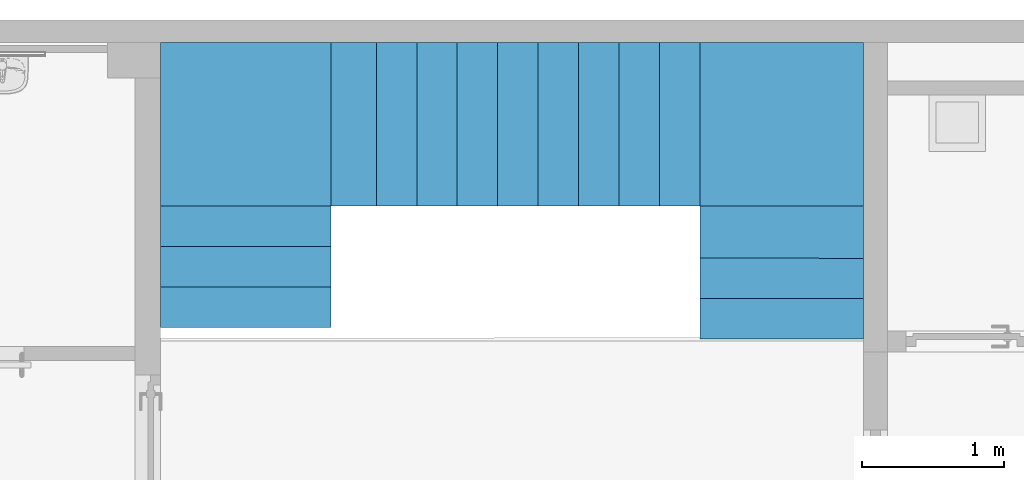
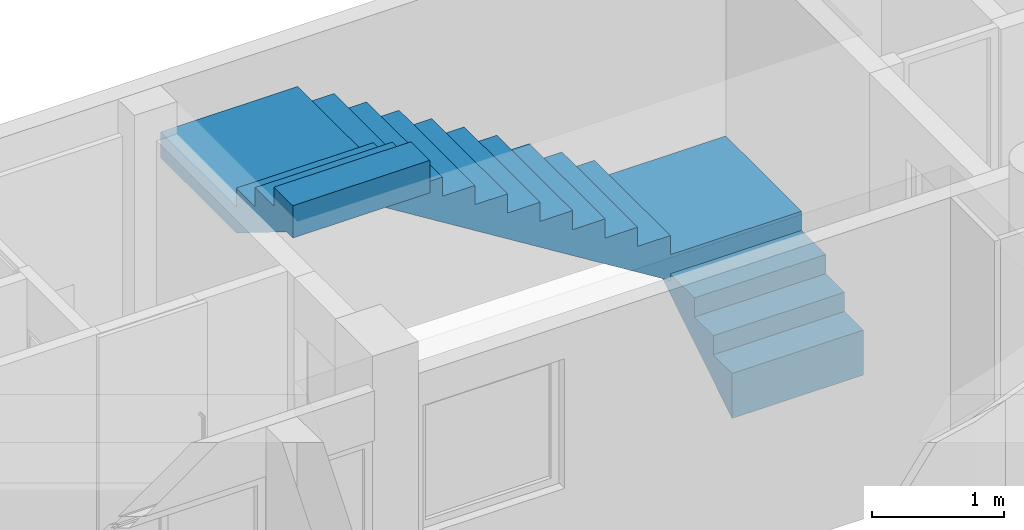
"""IFC4 building model written with IfcOpenShell, lengths in metres."""

from ifc_helpers import new_model, entity, si_unit, converted_unit, derived_unit, frame, origin, place, context, subcontext, project, spatial, faceted_brep, element, save


model = new_model("IFC4")

# Units and contexts
model_context = context("Model", 3, precision=1e-05, world=origin())
body_context = subcontext(model_context, "Body", "Model", "MODEL_VIEW")
ifc_project = project(units=[si_unit("LENGTHUNIT", "METRE"), si_unit("AREAUNIT", "SQUARE_METRE"), si_unit("VOLUMEUNIT", "CUBIC_METRE"), si_unit("MASSUNIT", "GRAM", prefix="KILO"), converted_unit("PLANEANGLEUNIT", "DEGREE", entity("IfcPlaneAngleMeasure", 0.0174532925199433), si_unit("PLANEANGLEUNIT", "RADIAN"), dimensions=[0, 0, 0, 0, 0, 0, 0]), derived_unit("THERMALTRANSMITTANCEUNIT", [(si_unit("POWERUNIT", "WATT"), 1), (si_unit("THERMODYNAMICTEMPERATUREUNIT", "KELVIN"), -1), (si_unit("LENGTHUNIT", "METRE"), -2)]), derived_unit("VOLUMETRICFLOWRATEUNIT", [(si_unit("LENGTHUNIT", "METRE"), 3), (converted_unit("TIMEUNIT", "hour", entity("IfcTimeMeasure", 3600.0), si_unit("TIMEUNIT", "SECOND"), dimensions=[0, 0, 1, 0, 0, 0, 0]), -1), (si_unit("LENGTHUNIT", "METRE"), -1)])], contexts=[model_context])

# Building, storeys
building_placement = place(None, origin())
building = spatial("IfcBuilding", under=ifc_project, at=building_placement, Name="HABITATGE PLURIFAMILIAR", CompositionType="ELEMENT")
storey_1_placement = place(building_placement, frame((0.0, 0.0, 12.27)))
storey_1 = spatial("IfcBuildingStorey", under=building, at=storey_1_placement, Name="PLANTA TERCERA", CompositionType="ELEMENT", Elevation=12.27)
storey_2_placement = place(storey_1_placement, frame((0.0, 0.0, 9.26)))
storey_2 = spatial("IfcBuildingStorey", under=storey_1, at=storey_2_placement, Name="NOU", CompositionType="PARTIAL")

# Stair
stair_placement = place(storey_2_placement, frame((410.826984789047, 25.9805469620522, -9.50006483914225)))
element("IfcStair", 1, at=stair_placement, inside=storey_2, Name="Escala P3", PredefinedType="NOTDEFINED", context=body_context, shape_type="Brep", body=[
    faceted_brep([(3.79890759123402, 0.000171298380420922, 0.377123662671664), (3.79890759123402, 0.000171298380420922, 0.417123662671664), (4.94890757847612, 0.0, 0.417123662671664), (4.94890757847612, 0.0, 0.377123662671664), (4.94895003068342, 0.284999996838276, 0.417123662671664), (4.94895003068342, 0.284999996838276, 0.377123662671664), (3.79895004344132, 0.285171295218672, 0.417123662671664), (3.79895004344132, 0.285171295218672, 0.377123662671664)], [[[0, 1, 2, 3]], [[3, 2, 4, 5]], [[5, 4, 6, 7]], [[7, 6, 1, 0]], [[0, 3, 5, 7]], [[1, 6, 4, 2]]], orient=[[False], [False], [False], [False], [False], [False]]),
    faceted_brep([(3.79895004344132, 0.285171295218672, 0.554182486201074), (3.79895004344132, 0.285171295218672, 0.594182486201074), (4.94895003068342, 0.284999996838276, 0.594182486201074), (4.94895003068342, 0.284999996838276, 0.554182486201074), (4.94899248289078, 0.569999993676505, 0.594182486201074), (4.94899248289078, 0.569999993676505, 0.554182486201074), (3.79899249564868, 0.570171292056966, 0.594182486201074), (3.79899249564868, 0.570171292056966, 0.554182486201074)], [[[0, 1, 2, 3]], [[3, 2, 4, 5]], [[5, 4, 6, 7]], [[7, 6, 1, 0]], [[0, 3, 5, 7]], [[1, 6, 4, 2]]], orient=[[False], [False], [False], [False], [False], [False]]),
    faceted_brep([(3.79899249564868, 0.570171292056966, 0.731241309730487), (3.79899249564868, 0.570171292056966, 0.771241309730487), (4.94899248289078, 0.569999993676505, 0.771241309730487), (4.94899248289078, 0.569999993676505, 0.731241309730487), (4.9490472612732, 0.937750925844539, 0.771241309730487), (4.9490472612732, 0.937750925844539, 0.731241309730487), (3.79904727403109, 0.937922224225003, 0.771241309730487), (3.79904727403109, 0.937922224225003, 0.731241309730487)], [[[0, 1, 2, 3]], [[3, 2, 4, 5]], [[5, 4, 6, 7]], [[7, 6, 1, 0]], [[0, 3, 5, 7]], [[1, 6, 4, 2]]], orient=[[False], [False], [False], [False], [False], [False]]),
    faceted_brep([(4.9490472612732, 0.937750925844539, 0.731241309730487), (4.94899248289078, 0.569999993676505, 0.731241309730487), (3.79899249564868, 0.570171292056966, 0.731241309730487), (3.79904727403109, 0.937922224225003, 0.731241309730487), (4.94890757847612, 0.0, 0.0), (4.94890757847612, 0.0, 0.377123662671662), (4.94895003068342, 0.284999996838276, 0.377123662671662), (4.94895003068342, 0.284999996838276, 0.554182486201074), (4.94899248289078, 0.569999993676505, 0.554182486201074), (4.9490472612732, 0.937750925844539, 0.708300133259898), (4.94907740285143, 1.14010435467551, 0.708300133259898), (3.79899249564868, 0.570171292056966, 0.554182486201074), (3.79907741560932, 1.14027565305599, 0.708300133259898), (3.79904727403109, 0.937922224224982, 0.708300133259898), (3.79895004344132, 0.285171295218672, 0.554182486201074), (3.79895004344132, 0.285171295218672, 0.377123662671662), (3.79890759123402, 0.000171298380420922, 0.377123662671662), (3.79890759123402, 0.000171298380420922, 0.0)], [[[0, 1, 2, 3]], [[4, 5, 6, 7, 8, 1, 0, 9, 10]], [[1, 8, 11, 2]], [[12, 13, 3, 2, 11, 14, 15, 16, 17]], [[12, 17, 4, 10]], [[13, 12, 10, 9]], [[8, 7, 14, 11]], [[7, 6, 15, 14]], [[6, 5, 16, 15]], [[5, 4, 17, 16]], [[13, 9, 0, 3]]], orient=[[False], [False], [False], [False], [False], [False], [False], [False], [False], [False], [False]]),
    faceted_brep([(3.79904727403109, 0.937922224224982, 0.908300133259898), (3.79904727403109, 0.937922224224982, 0.948300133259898), (4.9490472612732, 0.937750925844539, 0.948300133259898), (4.9490472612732, 0.937750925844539, 0.908300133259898), (4.94921858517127, 2.08792222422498, 0.948300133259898), (4.94921858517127, 2.08792222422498, 0.908300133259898), (3.79904727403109, 2.08792222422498, 0.948300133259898), (3.79904727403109, 2.08792222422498, 0.908300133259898)], [[[0, 1, 2, 3]], [[3, 2, 4, 5]], [[5, 4, 6, 7]], [[7, 6, 1, 0]], [[0, 3, 5, 7]], [[1, 6, 4, 2]]], orient=[[False], [False], [False], [False], [False], [False]]),
    faceted_brep([(3.79904727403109, 0.937922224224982, 0.708300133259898), (3.79904727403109, 0.937922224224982, 0.908300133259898), (4.9490472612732, 0.937750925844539, 0.908300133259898), (4.9490472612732, 0.937750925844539, 0.708300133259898), (4.94921858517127, 2.08792222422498, 0.908300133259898), (4.94921858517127, 2.08792222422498, 0.708300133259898), (3.79904727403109, 2.08792222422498, 0.908300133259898), (3.79904727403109, 2.08792222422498, 0.708300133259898)], [[[0, 1, 2, 3]], [[3, 2, 4, 5]], [[5, 4, 6, 7]], [[7, 6, 1, 0]], [[0, 3, 5, 7]], [[1, 6, 4, 2]]], orient=[[False], [False], [False], [False], [False], [False]]),
    faceted_brep([(3.79904727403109, 0.937922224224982, 1.08535895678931), (3.79904727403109, 0.937922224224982, 1.12535895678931), (3.79904727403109, 2.08792222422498, 1.12535895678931), (3.79904727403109, 2.08792222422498, 1.08535895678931), (3.51404727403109, 2.08792222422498, 1.12535895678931), (3.51404727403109, 2.08792222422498, 1.08535895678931), (3.51404727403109, 0.937922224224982, 1.12535895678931), (3.51404727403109, 0.937922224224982, 1.08535895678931)], [[[0, 1, 2, 3]], [[3, 2, 4, 5]], [[5, 4, 6, 7]], [[7, 6, 1, 0]], [[0, 3, 5, 7]], [[1, 6, 4, 2]]], orient=[[False], [False], [False], [False], [False], [False]]),
    faceted_brep([(3.51404727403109, 0.937922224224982, 1.26241778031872), (3.51404727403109, 0.937922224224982, 1.30241778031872), (3.51404727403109, 2.08792222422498, 1.30241778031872), (3.51404727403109, 2.08792222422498, 1.26241778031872), (3.22904727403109, 2.08792222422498, 1.30241778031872), (3.22904727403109, 2.08792222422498, 1.26241778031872), (3.22904727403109, 0.937922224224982, 1.30241778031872), (3.22904727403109, 0.937922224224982, 1.26241778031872)], [[[0, 1, 2, 3]], [[3, 2, 4, 5]], [[5, 4, 6, 7]], [[7, 6, 1, 0]], [[0, 3, 5, 7]], [[1, 6, 4, 2]]], orient=[[False], [False], [False], [False], [False], [False]]),
    faceted_brep([(3.22904727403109, 0.937922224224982, 1.43947660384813), (3.22904727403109, 0.937922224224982, 1.47947660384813), (3.22904727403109, 2.08792222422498, 1.47947660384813), (3.22904727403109, 2.08792222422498, 1.43947660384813), (2.94404727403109, 2.08792222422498, 1.47947660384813), (2.94404727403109, 2.08792222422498, 1.43947660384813), (2.94404727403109, 0.937922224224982, 1.47947660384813), (2.94404727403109, 0.937922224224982, 1.43947660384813)], [[[0, 1, 2, 3]], [[3, 2, 4, 5]], [[5, 4, 6, 7]], [[7, 6, 1, 0]], [[0, 3, 5, 7]], [[1, 6, 4, 2]]], orient=[[False], [False], [False], [False], [False], [False]]),
    faceted_brep([(2.94404727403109, 0.937922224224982, 1.61653542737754), (2.94404727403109, 0.937922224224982, 1.65653542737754), (2.94404727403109, 2.08792222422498, 1.65653542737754), (2.94404727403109, 2.08792222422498, 1.61653542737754), (2.65904727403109, 2.08792222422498, 1.65653542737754), (2.65904727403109, 2.08792222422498, 1.61653542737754), (2.65904727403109, 0.937922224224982, 1.65653542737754), (2.65904727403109, 0.937922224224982, 1.61653542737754)], [[[0, 1, 2, 3]], [[3, 2, 4, 5]], [[5, 4, 6, 7]], [[7, 6, 1, 0]], [[0, 3, 5, 7]], [[1, 6, 4, 2]]], orient=[[False], [False], [False], [False], [False], [False]]),
    faceted_brep([(2.65904727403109, 0.937922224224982, 1.79359425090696), (2.65904727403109, 0.937922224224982, 1.83359425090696), (2.65904727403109, 2.08792222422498, 1.83359425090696), (2.65904727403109, 2.08792222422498, 1.79359425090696), (2.37404727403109, 2.08792222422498, 1.83359425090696), (2.37404727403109, 2.08792222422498, 1.79359425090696), (2.37404727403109, 0.937922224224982, 1.83359425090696), (2.37404727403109, 0.937922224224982, 1.79359425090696)], [[[0, 1, 2, 3]], [[3, 2, 4, 5]], [[5, 4, 6, 7]], [[7, 6, 1, 0]], [[0, 3, 5, 7]], [[1, 6, 4, 2]]], orient=[[False], [False], [False], [False], [False], [False]]),
    faceted_brep([(2.37404727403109, 0.937922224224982, 1.97065307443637), (2.37404727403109, 0.937922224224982, 2.01065307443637), (2.37404727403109, 2.08792222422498, 2.01065307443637), (2.37404727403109, 2.08792222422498, 1.97065307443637), (2.08904727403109, 2.08792222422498, 2.01065307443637), (2.08904727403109, 2.08792222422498, 1.97065307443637), (2.08904727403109, 0.937922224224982, 2.01065307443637), (2.08904727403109, 0.937922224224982, 1.97065307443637)], [[[0, 1, 2, 3]], [[3, 2, 4, 5]], [[5, 4, 6, 7]], [[7, 6, 1, 0]], [[0, 3, 5, 7]], [[1, 6, 4, 2]]], orient=[[False], [False], [False], [False], [False], [False]]),
    faceted_brep([(2.08904727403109, 0.937922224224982, 2.14771189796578), (2.08904727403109, 0.937922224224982, 2.18771189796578), (2.08904727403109, 2.08792222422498, 2.18771189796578), (2.08904727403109, 2.08792222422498, 2.14771189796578), (1.80404727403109, 2.08792222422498, 2.18771189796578), (1.80404727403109, 2.08792222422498, 2.14771189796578), (1.80404727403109, 0.937922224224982, 2.18771189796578), (1.80404727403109, 0.937922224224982, 2.14771189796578)], [[[0, 1, 2, 3]], [[3, 2, 4, 5]], [[5, 4, 6, 7]], [[7, 6, 1, 0]], [[0, 3, 5, 7]], [[1, 6, 4, 2]]], orient=[[False], [False], [False], [False], [False], [False]]),
    faceted_brep([(1.80404727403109, 0.937922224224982, 2.32477072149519), (1.80404727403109, 0.937922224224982, 2.36477072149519), (1.80404727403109, 2.08792222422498, 2.36477072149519), (1.80404727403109, 2.08792222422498, 2.32477072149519), (1.51904727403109, 2.08792222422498, 2.36477072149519), (1.51904727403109, 2.08792222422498, 2.32477072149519), (1.51904727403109, 0.937922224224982, 2.36477072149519), (1.51904727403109, 0.937922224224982, 2.32477072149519)], [[[0, 1, 2, 3]], [[3, 2, 4, 5]], [[5, 4, 6, 7]], [[7, 6, 1, 0]], [[0, 3, 5, 7]], [[1, 6, 4, 2]]], orient=[[False], [False], [False], [False], [False], [False]]),
    faceted_brep([(1.51904727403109, 0.937922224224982, 2.5018295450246), (1.51904727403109, 0.937922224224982, 2.5418295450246), (1.51904727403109, 2.08792222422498, 2.5418295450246), (1.51904727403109, 2.08792222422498, 2.5018295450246), (1.19984509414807, 2.08792222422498, 2.5418295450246), (1.19984509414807, 2.08792222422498, 2.5018295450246), (1.19984509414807, 0.937922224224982, 2.5418295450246), (1.19984509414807, 0.937922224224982, 2.5018295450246)], [[[0, 1, 2, 3]], [[3, 2, 4, 5]], [[5, 4, 6, 7]], [[7, 6, 1, 0]], [[0, 3, 5, 7]], [[1, 6, 4, 2]]], orient=[[False], [False], [False], [False], [False], [False]]),
    faceted_brep([(1.19984509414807, 2.08792222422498, 2.5018295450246), (1.51904727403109, 2.08792222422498, 2.5018295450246), (1.51904727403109, 0.937922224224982, 2.5018295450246), (1.19984509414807, 0.937922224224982, 2.5018295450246), (3.79904727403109, 2.08792222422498, 0.708300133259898), (3.79904727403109, 2.08792222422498, 1.08535895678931), (3.51404727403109, 2.08792222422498, 1.08535895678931), (3.51404727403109, 2.08792222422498, 1.26241778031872), (3.22904727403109, 2.08792222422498, 1.26241778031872), (3.22904727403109, 2.08792222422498, 1.43947660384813), (2.94404727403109, 2.08792222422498, 1.43947660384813), (2.94404727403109, 2.08792222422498, 1.61653542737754), (2.65904727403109, 2.08792222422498, 1.61653542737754), (2.65904727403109, 2.08792222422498, 1.79359425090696), (2.37404727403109, 2.08792222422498, 1.79359425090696), (2.37404727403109, 2.08792222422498, 1.97065307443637), (2.08904727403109, 2.08792222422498, 1.97065307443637), (2.08904727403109, 2.08792222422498, 2.14771189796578), (1.80404727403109, 2.08792222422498, 2.14771189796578), (1.80404727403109, 2.08792222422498, 2.32477072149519), (1.51904727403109, 2.08792222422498, 2.32477072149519), (1.19984509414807, 2.08792222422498, 2.47888836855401), (0.948942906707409, 2.08792222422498, 2.47888836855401), (3.79894290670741, 2.08792222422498, 0.708300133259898), (1.51904727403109, 0.937922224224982, 2.32477072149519), (3.79894290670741, 0.937922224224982, 0.708300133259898), (0.948942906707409, 0.937922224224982, 2.47888836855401), (1.19984509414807, 0.937922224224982, 2.47888836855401), (1.80404727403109, 0.937922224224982, 2.32477072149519), (1.80404727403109, 0.937922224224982, 2.14771189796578), (2.08904727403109, 0.937922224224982, 2.14771189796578), (2.08904727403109, 0.937922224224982, 1.97065307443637), (2.37404727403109, 0.937922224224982, 1.97065307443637), (2.37404727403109, 0.937922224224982, 1.79359425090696), (2.65904727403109, 0.937922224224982, 1.79359425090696), (2.65904727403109, 0.937922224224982, 1.61653542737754), (2.94404727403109, 0.937922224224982, 1.61653542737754), (2.94404727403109, 0.937922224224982, 1.43947660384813), (3.22904727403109, 0.937922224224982, 1.43947660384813), (3.22904727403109, 0.937922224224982, 1.26241778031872), (3.51404727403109, 0.937922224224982, 1.26241778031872), (3.51404727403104, 0.937922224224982, 1.08535895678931), (3.79904727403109, 0.937922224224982, 1.08535895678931), (3.79904727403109, 0.937922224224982, 0.708300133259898)], [[[0, 1, 2, 3]], [[4, 5, 6, 7, 8, 9, 10, 11, 12, 13, 14, 15, 16, 17, 18, 19, 20, 1, 0, 21, 22, 23]], [[1, 20, 24, 2]], [[25, 26, 27, 3, 2, 24, 28, 29, 30, 31, 32, 33, 34, 35, 36, 37, 38, 39, 40, 41, 42, 43]], [[4, 23, 25, 43]], [[26, 25, 23, 22]], [[27, 26, 22, 21]], [[20, 19, 28, 24]], [[19, 18, 29, 28]], [[18, 17, 30, 29]], [[17, 16, 31, 30]], [[16, 15, 32, 31]], [[15, 14, 33, 32]], [[14, 13, 34, 33]], [[13, 12, 35, 34]], [[12, 11, 36, 35]], [[11, 10, 37, 36]], [[10, 9, 38, 37]], [[9, 8, 39, 38]], [[8, 7, 40, 39]], [[7, 6, 41, 40]], [[6, 5, 42, 41]], [[5, 4, 43, 42]], [[27, 21, 0, 3]]], orient=[[False], [False], [False], [False], [False], [False], [False], [False], [False], [False], [False], [False], [False], [False], [False], [False], [False], [False], [False], [False], [False], [False], [False], [False]]),
    faceted_brep([(1.19984509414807, 0.937922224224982, 2.67888836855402), (1.19984509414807, 0.937922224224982, 2.71888836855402), (1.19984509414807, 2.08792222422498, 2.71888836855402), (1.19984509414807, 2.08792222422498, 2.67888836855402), (0.0, 2.08792222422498, 2.71888836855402), (0.0, 2.08792222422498, 2.67888836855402), (0.0, 0.937922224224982, 2.71888836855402), (0.0, 0.937922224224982, 2.67888836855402)], [[[0, 1, 2, 3]], [[3, 2, 4, 5]], [[5, 4, 6, 7]], [[7, 6, 1, 0]], [[0, 3, 5, 7]], [[1, 6, 4, 2]]], orient=[[False], [False], [False], [False], [False], [False]]),
    faceted_brep([(1.19984509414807, 0.937922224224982, 2.47888836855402), (1.19984509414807, 0.937922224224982, 2.67888836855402), (1.19984509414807, 2.08792222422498, 2.67888836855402), (1.19984509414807, 2.08792222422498, 2.47888836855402), (0.0, 2.08792222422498, 2.67888836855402), (0.0, 2.08792222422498, 2.47888836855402), (0.0, 0.937922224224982, 2.67888836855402), (0.0, 0.937922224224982, 2.47888836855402)], [[[0, 1, 2, 3]], [[3, 2, 4, 5]], [[5, 4, 6, 7]], [[7, 6, 1, 0]], [[0, 3, 5, 7]], [[1, 6, 4, 2]]], orient=[[False], [False], [False], [False], [False], [False]]),
    faceted_brep([(1.19984509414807, 0.937922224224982, 2.85594719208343), (1.19984509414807, 0.937922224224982, 2.89594719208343), (0.0, 0.937922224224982, 2.89594719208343), (0.0, 0.937922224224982, 2.85594719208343), (0.0, 0.652922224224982, 2.89594719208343), (0.0, 0.652922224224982, 2.85594719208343), (1.19984509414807, 0.652922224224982, 2.89594719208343), (1.19984509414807, 0.652922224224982, 2.85594719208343)], [[[0, 1, 2, 3]], [[3, 2, 4, 5]], [[5, 4, 6, 7]], [[7, 6, 1, 0]], [[0, 3, 5, 7]], [[1, 6, 4, 2]]], orient=[[False], [False], [False], [False], [False], [False]]),
    faceted_brep([(1.19984509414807, 0.652922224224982, 3.03300601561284), (1.19984509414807, 0.652922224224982, 3.07300601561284), (0.0, 0.652922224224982, 3.07300601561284), (0.0, 0.652922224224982, 3.03300601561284), (0.0, 0.367922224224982, 3.07300601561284), (0.0, 0.367922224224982, 3.03300601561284), (1.19984509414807, 0.367922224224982, 3.07300601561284), (1.19984509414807, 0.367922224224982, 3.03300601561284)], [[[0, 1, 2, 3]], [[3, 2, 4, 5]], [[5, 4, 6, 7]], [[7, 6, 1, 0]], [[0, 3, 5, 7]], [[1, 6, 4, 2]]], orient=[[False], [False], [False], [False], [False], [False]]),
    faceted_brep([(1.19984509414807, 0.367922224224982, 3.21006483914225), (1.19984509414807, 0.367922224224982, 3.25006483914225), (0.0, 0.367922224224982, 3.25006483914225), (0.0, 0.367922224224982, 3.21006483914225), (0.0, 0.0829222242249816, 3.25006483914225), (0.0, 0.0829222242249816, 3.21006483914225), (1.19984509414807, 0.0829222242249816, 3.25006483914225), (1.19984509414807, 0.0829222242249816, 3.21006483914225)], [[[0, 1, 2, 3]], [[3, 2, 4, 5]], [[5, 4, 6, 7]], [[7, 6, 1, 0]], [[0, 3, 5, 7]], [[1, 6, 4, 2]]], orient=[[False], [False], [False], [False], [False], [False]]),
    faceted_brep([(0.0, 0.0829222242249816, 3.21006483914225), (0.0, 0.367922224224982, 3.21006483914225), (1.19984509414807, 0.367922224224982, 3.21006483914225), (1.19984509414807, 0.0829222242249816, 3.21006483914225), (0.0, 0.937922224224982, 2.47888836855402), (0.0, 0.937922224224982, 2.85594719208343), (0.0, 0.652922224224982, 2.85594719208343), (0.0, 0.652922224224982, 3.03300601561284), (0.0, 0.367922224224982, 3.03300601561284), (0.0, 0.0829222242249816, 2.95006483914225), (0.0, 0.179395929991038, 2.95006483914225), (0.0, 0.93781785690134, 2.47888836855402), (1.19984509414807, 0.367922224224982, 3.03300601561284), (1.19984509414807, 0.93781785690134, 2.47888836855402), (1.19984509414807, 0.179395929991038, 2.95006483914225), (1.19984509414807, 0.0829222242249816, 2.95006483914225), (1.19984509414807, 0.652922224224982, 3.03300601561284), (1.19984509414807, 0.652922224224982, 2.85594719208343), (1.19984509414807, 0.937922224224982, 2.85594719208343), (1.19984509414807, 0.937922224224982, 2.47888836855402)], [[[0, 1, 2, 3]], [[4, 5, 6, 7, 8, 1, 0, 9, 10, 11]], [[1, 8, 12, 2]], [[13, 14, 15, 3, 2, 12, 16, 17, 18, 19]], [[4, 11, 13, 19]], [[14, 13, 11, 10]], [[15, 14, 10, 9]], [[8, 7, 16, 12]], [[7, 6, 17, 16]], [[6, 5, 18, 17]], [[5, 4, 19, 18]], [[15, 9, 0, 3]]], orient=[[False], [False], [False], [False], [False], [False], [False], [False], [False], [False], [False], [False]]),
])

save(model, "model.ifc")
